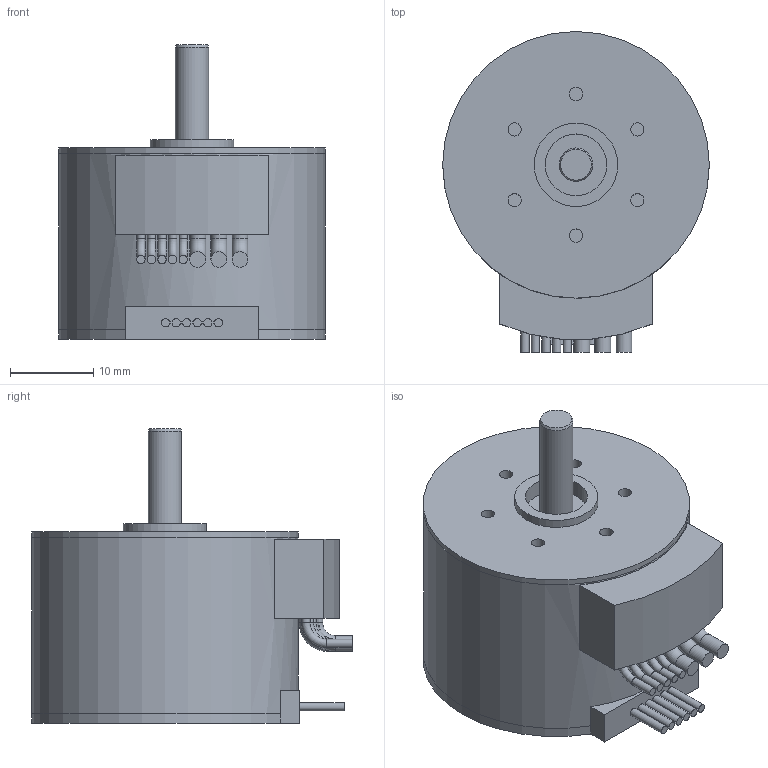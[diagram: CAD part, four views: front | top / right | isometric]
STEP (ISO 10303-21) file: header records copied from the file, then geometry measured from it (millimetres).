
FILE_DESCRIPTION(/* description */ (''),/* implementation_level */ '2;1');
FILE_NAME(/* name */ '3216.BXT_IEF3.stp',/* time_stamp */ '2019-09-17T16:17:38+02:00',/* author */ ('DR. FRITZ FAULHABER GmbH & Co. KG'),/* organization */ ('DR. FRITZ FAULHABER GmbH & Co. KG'),/* preprocessor_version */ 'ST-DEVELOPER v16.7',/* originating_system */ 'SIEMENS PLM Software NX 12.0',/* authorisation */ '');
FILE_SCHEMA (('AUTOMOTIVE_DESIGN { 1 0 10303 214 3 1 1 1 }'));
Length unit declared in the file: millimetre
Products named in the file (1): H00002277-A-3216.0H006
Bounding box: 32 x 38.5 x 35.4 mm (x, y, z)
Volume: 19711.8 mm3; surface area: 4936.9 mm2
Topology: 1 solids, 1 shells, 94 faces, 196 edges, 124 vertices
Faces by surface type: plane 44, cylinder 41, torus 8, cone 1
Full cylindrical faces by diameter (mm): 1 x10, 1.6 x6, 1.9 x6, 4 x1, 7.4 x1, 10 x1, 31.999 x1, 32 x2
Entity records: 2304 total; most frequent: DIRECTION 430, CARTESIAN_POINT 369, ORIENTED_EDGE 308, AXIS2_PLACEMENT_3D 181, EDGE_CURVE 154, EDGE_LOOP 152, VERTEX_POINT 120, FACE_BOUND 102
